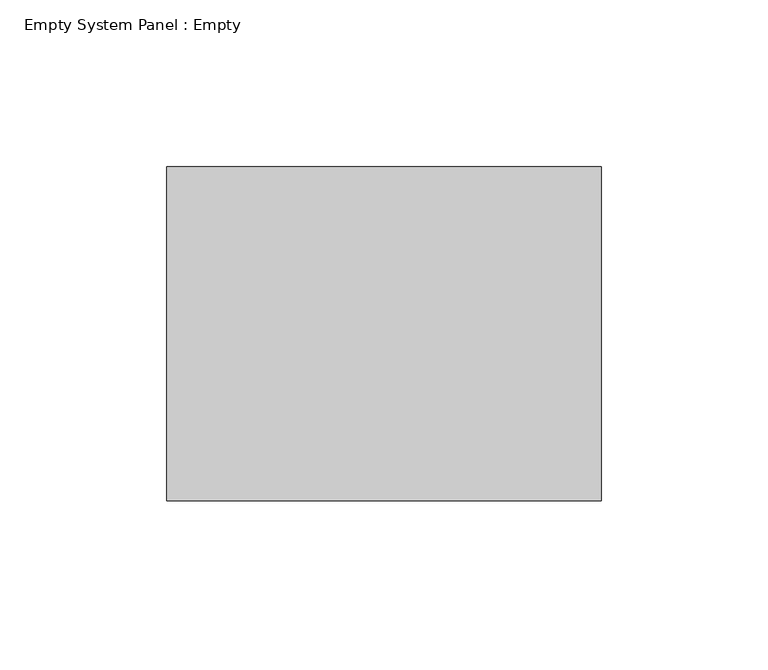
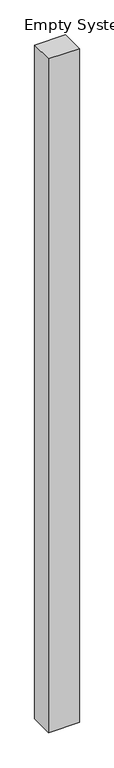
"""IFC4 building model written with IfcOpenShell, lengths in millimetres: plate geometry, Empty System Panel : Empty."""

from ifc_helpers import new_model, si_unit, origin, origin_with_axes, place, context, project, spatial, polyline, outline, extrude, source, transform, mapped, element, save


def empty_system_panel_empty_b9c1531e(model_context):
    return source(origin(), model_context, "Body", "SweptSolid", [
        extrude(outline(polyline([(64.9999998, 50.0), (-64.9999998, 50.0), (-64.9999998, 150.0), (64.9999998, 150.0), (64.9999998, 50.0)])), origin_with_axes(), (0.0, 0.0, 1.0), 3000.0),
    ])


if __name__ == "__main__":
    model = new_model("IFC4")
    model_context = context("Model", 3, world=origin())
    ifc_project = project(units=[si_unit("LENGTHUNIT", "METRE", prefix="MILLI")], contexts=[model_context])
    site = spatial("IfcSite", under=ifc_project)
    building = spatial("IfcBuilding", under=site)
    placement = place(None, origin())
    empty_system_panel_empty_shape = empty_system_panel_empty_b9c1531e(model_context)
    element("IfcPlate", 1, ObjectType="Empty System Panel : Empty", at=placement, inside=building, context=model_context, shape_type="MappedRepresentation", body=[
        mapped(empty_system_panel_empty_shape, transform((0.0, 0.0, 0.0), x_axis=(1.0, 0.0, 0.0), y_axis=(0.0, 1.0, 0.0), z_axis=(0.0, 0.0, 1.0))),
    ])
    save(model, "model.ifc")
